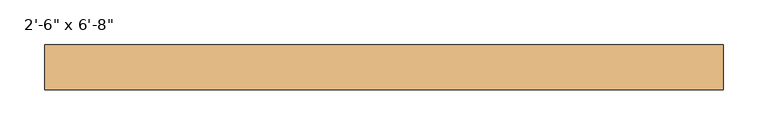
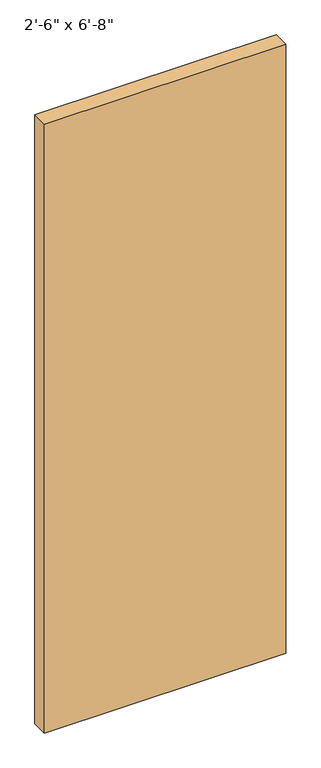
"""IFC4 building model written with IfcOpenShell, lengths in millimetres: door geometry."""

from ifc_helpers import new_model, si_unit, origin, origin_with_axes, place, context, project, spatial, polyline, outline, extrude, source, transform, mapped, element, save


def door_f91040a7(model_context):
    return source(origin(), model_context, "Body", "SweptSolid", [
        extrude(outline(polyline([(381.0, -37.9), (381.0, -88.9), (-381.0, -88.9), (-381.0, -37.9), (381.0, -37.9)])), origin_with_axes(), (0.0, 0.0, 1.0), 2032.0),
    ])


if __name__ == "__main__":
    model = new_model("IFC4")
    model_context = context("Model", 3, world=origin())
    ifc_project = project(units=[si_unit("LENGTHUNIT", "METRE", prefix="MILLI")], contexts=[model_context])
    site = spatial("IfcSite", under=ifc_project)
    building = spatial("IfcBuilding", under=site)
    placement = place(None, origin())
    door_shape = door_f91040a7(model_context)
    element("IfcDoor", 1, ObjectType="Planitar - Single Door_Flush Panel : 2'-6\" x 6'-8\"", at=placement, inside=building, context=model_context, shape_type="MappedRepresentation", body=[
        mapped(door_shape, transform((0.0, 0.0, 0.0), x_axis=(1.0, 0.0, 0.0), y_axis=(0.0, 1.0, 0.0), z_axis=(0.0, 0.0, 1.0))),
    ])
    save(model, "model.ifc")
